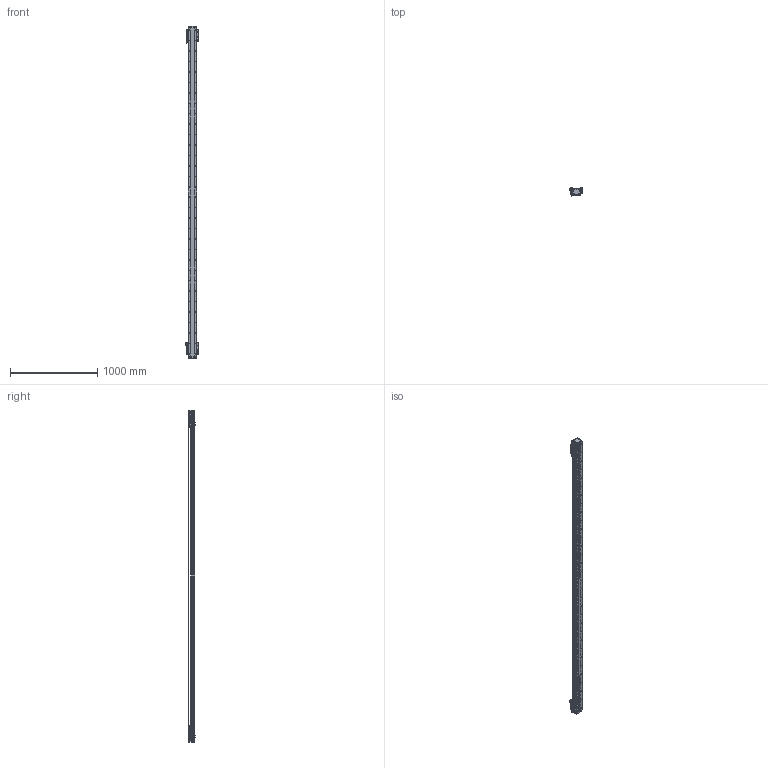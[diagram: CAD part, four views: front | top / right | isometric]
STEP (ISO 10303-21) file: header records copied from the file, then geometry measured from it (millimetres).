
FILE_DESCRIPTION (( 'STEP AP203' ), '1' );
FILE_NAME ('DA-B95-2-B15-T3440-C010-0.2 直线电机.STEP', '2023-05-06T06:49:21', ( '微软用户' ), ( '微软中国' ), 'SwSTEP 2.0', 'SolidWorks 2019', '' );
FILE_SCHEMA (( 'CONFIG_CONTROL_DESIGN' ));
Length unit declared in the file: millimetre
Products named in the file (34): 复件 六角薄螺母 M3^DA-A95-B15-T-C010-0.2-N 直线电机_GB_FASTENER_NUT_STNAB M3-C; 66245-BU95-V-00 珨极趙賑雄怢啣; 复件 DA95-B15-YB-A-00 压板A^66245-BU95-V 滚珠滑台; 复件 复件 18252-0001-003-00 钢带拉块^DA-A95-B15-T-C010-0.2-N 直线电机; IU-BU95-L 菁釱絳寢; DA95-HXJ-00 缓冲橡胶^DA-A95-B15-T-C010-0.2-N 直线电机; 复件 复件 18252-0001-004-00 钢带端盖^DA-A95-B15-T-C010-0.2-N 直线电机; 复件 DA95-B15 钢带盖板^DA-A95-B15-T-C010-0.2-N 直线电机; 复件 DKW-HXJ-JY-00 缓冲橡胶^DA-A95-B15-T-C010-0.2-N 直线电机; 复件 DKW-GYP-ZJ-00 中间光电感应片^DA-A95-B15-T-C010-0.2-N 直线电机; 葩璃 DA95-B15-DP--B-00 菜えB^66245-BU95-V 幗紩賑怢; B15 XD-U-02L ｴﾅﾕ､ｳﾟ^DA-A95-B15-T-C010-0.2-N ﾖｱﾏﾟｵ扈銈XD-U-02L; 葩璃 PM-Y45^DA-A95-B15-T-C010-0.2-N 眻盄萇儂; 复件 DA95-HK-GT-00 滑块钢轨^66245-BU95-V-00 一体化滑动台板; 66245-BU95-V 幗紩賑怢; DA-B95-2-B15-T3440-C010-0.2 眻盄萇儂; 复件 DA95-DK-00 挡块^66245-BU95-V 滚珠滑台; 葩璃 DA95-GT-T-00^IU-BU95-L 菁釱絳寢_DA95; 复件 复件 18252-0001-002-00 钢带垫块^DA-A95-B15-T-C010-0.2-N 直线电机; LMDK-2-R001-V5-L02-C1-F00，0.2M 读数头^DA-A95-B15-T-C010-0.2-N 直线电机_DMA-010-0.2; 葩璃 BKM015-W060-C1-TP-DA-0.2^DA-A95-B15-T-C010-0.2-N 眻盄萇儂; PM-T45 光电开关^DA-A95-B15-T-C010-0.2-N 直线电机; 复件 DA95-B15-YB-B-00 压板B^66245-BU95-V 滚珠滑台; 葩璃 DA95-B15-DP-A-00 菜えA^66245-BU95-V 幗紩賑怢; 复件 DA95-MFP-01 密封片^66245-BU95-V 滚珠滑台; 复件 66245-BU95-HT-V-01 滑动台板^66245-BU95-V-00 一体化滑动台板; IU-BU95-L-00 菁釱_L3780; 复件 纯铜油杯 6x6mm^66245-BU95-V 滚珠滑台; 葩璃 BKMA01-W060-TRL^DA-A95-B15-T-C010-0.2-N 眻盄萇儂; 复件 DA95-DB-00  挡板^66245-BU95-V 滚珠滑台; 复件 DKW-KGZ-ZJ-00 中间光电开关支架^DA-A95-B15-T-C010-0.2-N 直线电机; DA-A95-GYP-00 光电感应片^DA-A95-B15-T-C010-0.2-N 直线电机
Assembly tree (80 placements, depth 4):
  DA-B95-2-B15-T3440-C010-0.2 眻盄萇儂
    IU-BU95-L 菁釱絳寢
      IU-BU95-L-00 菁釱_L3780
      葩璃 DA95-GT-T-00^IU-BU95-L 菁釱絳寢_DA95  x2
    66245-BU95-V 幗紩賑怢
      66245-BU95-V-00 珨极趙賑雄怢啣
        复件 66245-BU95-HT-V-01 滑动台板^66245-BU95-V-00 一体化滑动台板
        复件 DA95-HK-GT-00 滑块钢轨^66245-BU95-V-00 一体化滑动台板  x2
      葩璃 DA95-B15-DP-A-00 菜えA^66245-BU95-V 幗紩賑怢
      复件 DA95-B15-YB-A-00 压板A^66245-BU95-V 滚珠滑台
      复件 DA95-B15-YB-B-00 压板B^66245-BU95-V 滚珠滑台
      复件 DA95-DB-00  挡板^66245-BU95-V 滚珠滑台  x4
      复件 DA95-DK-00 挡块^66245-BU95-V 滚珠滑台  x2
      复件 DA95-MFP-01 密封片^66245-BU95-V 滚珠滑台  x4
      复件 纯铜油杯 6x6mm^66245-BU95-V 滚珠滑台  x2
      葩璃 DA95-B15-DP--B-00 菜えB^66245-BU95-V 幗紩賑怢
    66245-BU95-V 幗紩賑怢
      66245-BU95-V-00 珨极趙賑雄怢啣
        复件 66245-BU95-HT-V-01 滑动台板^66245-BU95-V-00 一体化滑动台板
        复件 DA95-HK-GT-00 滑块钢轨^66245-BU95-V-00 一体化滑动台板  x2
      葩璃 DA95-B15-DP-A-00 菜えA^66245-BU95-V 幗紩賑怢
      复件 DA95-B15-YB-A-00 压板A^66245-BU95-V 滚珠滑台
      复件 DA95-B15-YB-B-00 压板B^66245-BU95-V 滚珠滑台
      复件 DA95-DB-00  挡板^66245-BU95-V 滚珠滑台  x4
      复件 DA95-DK-00 挡块^66245-BU95-V 滚珠滑台  x2
      复件 DA95-MFP-01 密封片^66245-BU95-V 滚珠滑台  x4
      复件 纯铜油杯 6x6mm^66245-BU95-V 滚珠滑台  x2
      葩璃 DA95-B15-DP--B-00 菜えB^66245-BU95-V 幗紩賑怢
    DA-A95-GYP-00 光电感应片^DA-A95-B15-T-C010-0.2-N 直线电机  x2
    LMDK-2-R001-V5-L02-C1-F00，0.2M 读数头^DA-A95-B15-T-C010-0.2-N 直线电机_DMA-010-0.2  x2
    复件 DKW-KGZ-ZJ-00 中间光电开关支架^DA-A95-B15-T-C010-0.2-N 直线电机
    葩璃 PM-Y45^DA-A95-B15-T-C010-0.2-N 眻盄萇儂
    复件 DKW-GYP-ZJ-00 中间光电感应片^DA-A95-B15-T-C010-0.2-N 直线电机
    葩璃 BKM015-W060-C1-TP-DA-0.2^DA-A95-B15-T-C010-0.2-N 眻盄萇儂  x2
    复件 DKW-HXJ-JY-00 缓冲橡胶^DA-A95-B15-T-C010-0.2-N 直线电机  x2
    PM-T45 光电开关^DA-A95-B15-T-C010-0.2-N 直线电机  x4
    B15 XD-U-02L ｴﾅﾕ､ｳﾟ^DA-A95-B15-T-C010-0.2-N ﾖｱﾏﾟｵ扈銈XD-U-02L
    复件 复件 18252-0001-003-00 钢带拉块^DA-A95-B15-T-C010-0.2-N 直线电机  x2
    复件 复件 18252-0001-002-00 钢带垫块^DA-A95-B15-T-C010-0.2-N 直线电机  x2
    复件 复件 18252-0001-004-00 钢带端盖^DA-A95-B15-T-C010-0.2-N 直线电机  x2
    复件 DA95-B15 钢带盖板^DA-A95-B15-T-C010-0.2-N 直线电机
    DA95-HXJ-00 缓冲橡胶^DA-A95-B15-T-C010-0.2-N 直线电机  x4
    葩璃 BKMA01-W060-TRL^DA-A95-B15-T-C010-0.2-N 眻盄萇儂
    复件 六角薄螺母 M3^DA-A95-B15-T-C010-0.2-N 直线电机_GB_FASTENER_NUT_STNAB M3-C  x6
Bounding box: 145.4 x 90.2 x 3816 mm (x, y, z)
Volume: 11758315.7 mm3; surface area: 3948473.1 mm2
Topology: 75 solids, 93 shells, 4756 faces, 13876 edges, 8863 vertices
Faces by surface type: cylinder 2581, plane 1643, cone 464, torus 64, sphere 4
Entity records: 128666 total; most frequent: CARTESIAN_POINT 36084, ORIENTED_EDGE 19110, DIRECTION 17958, EDGE_CURVE 9555, AXIS2_PLACEMENT_3D 6889, VERTEX_POINT 6265, LINE 4180, VECTOR 4180
